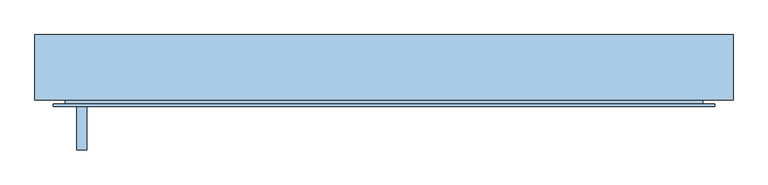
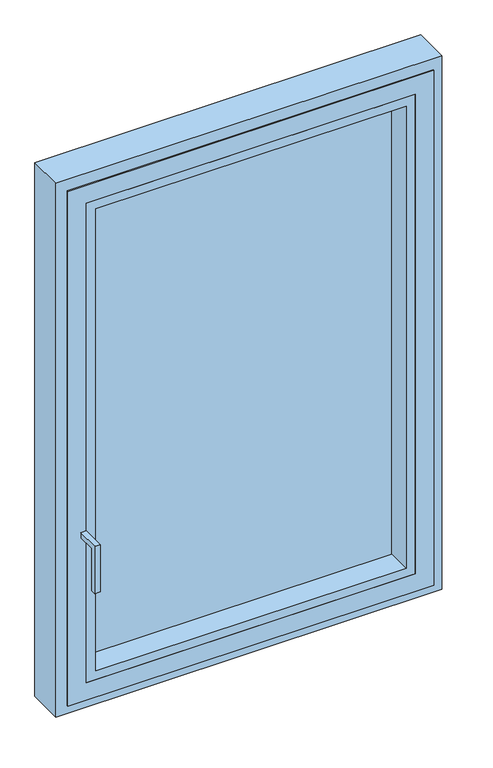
"""IFC4 building model written with IfcOpenShell, lengths in millimetres: window geometry, Reynaers_MasterLine 10_Window_Inward Opening_Single Vent : Reynaers_Masterline 10_Window_Inward Opening_Single Vent."""

from ifc_helpers import new_model, si_unit, frame, origin, place, context, project, spatial, polyline, outline, extrude, faceted_brep, source, transform, mapped, element, save


def window_15dccdcc(model_context):
    return source(origin(), model_context, "Body", "SolidModel", [
        extrude(outline(polyline([(-102.0, 1295.0), (-152.0, 1295.0), (-152.0, 1175.0), (-167.0, 1175.0), (-167.0, 1310.0), (-102.0, 1310.0), (-102.0, 1295.0)])), frame((-458.0, 0.0, 0.0), z_axis=(1.0, 0.0, 0.0), x_axis=(0.0, 1.0, 0.0)), (0.0, 0.0, 1.0), 15.0),
        faceted_brep([(-520.0, -92.0, 800.0), (-520.0, 5.0, 800.0), (520.0, 5.0, 800.0), (520.0, -92.0, 800.0), (520.0, 5.0, 2320.0), (520.0, -92.0, 2320.0), (-520.0, 5.0, 2320.0), (460.0, 5.0, 2260.0), (-460.0, 5.0, 2260.0), (-460.0, 5.0, 860.0), (460.0, 5.0, 860.0), (-520.0, -92.0, 2320.0), (487.0, -92.0, 833.0), (-487.0, -92.0, 833.0), (-487.0, -92.0, 2287.0), (487.0, -92.0, 2287.0), (-460.0, 1.0, 860.0), (460.0, 1.0, 860.0), (460.0, 1.0, 2260.0), (-487.0, 1.0, 2287.0), (-487.0, 1.0, 833.0), (487.0, 1.0, 833.0), (487.0, 1.0, 2287.0), (-460.0, 1.0, 2260.0)], [[[0, 1, 2, 3]], [[3, 2, 4, 5]], [[2, 1, 6, 4], [7, 8, 9, 10]], [[5, 11, 0, 3], [12, 13, 14, 15]], [[9, 16, 17, 10]], [[10, 17, 18, 7]], [[19, 20, 21, 22], [18, 17, 16, 23]], [[11, 6, 1, 0]], [[8, 23, 16, 9]], [[20, 13, 12, 21]], [[19, 14, 13, 20]], [[21, 12, 15, 22]], [[5, 4, 6, 11]], [[7, 18, 23, 8]], [[22, 15, 14, 19]]]),
        faceted_brep([(-453.0, -5.0, 867.0), (-453.0, 5.0, 867.0), (453.0, 5.0, 867.0), (453.0, -5.0, 867.0), (453.0, 5.0, 2253.0), (453.0, -5.0, 2253.0), (-453.0, 5.0, 2253.0), (416.0, 5.0, 2216.0), (-416.0, 5.0, 2216.0), (-416.0, 5.0, 904.0), (416.0, 5.0, 904.0), (475.0, -5.0, 2275.0), (475.0, -5.0, 845.0), (-475.0, -5.0, 845.0), (-475.0, -5.0, 2275.0), (-453.0, -5.0, 2253.0), (-416.0, -3.0, 904.0), (416.0, -3.0, 904.0), (416.0, -3.0, 2216.0), (-443.0, -3.0, 2243.0), (-443.0, -3.0, 877.0), (443.0, -3.0, 877.0), (443.0, -3.0, 2243.0), (-416.0, -3.0, 2216.0), (-443.0, -102.0, 877.0), (443.0, -102.0, 877.0), (493.0, -102.0, 2293.0), (-493.0, -102.0, 2293.0), (-493.0, -102.0, 827.0), (493.0, -102.0, 827.0), (-443.0, -102.0, 2243.0), (443.0, -102.0, 2243.0), (-493.0, -98.0, 2293.0), (-493.0, -98.0, 827.0), (493.0, -98.0, 827.0), (493.0, -98.0, 2293.0), (-475.0, -98.0, 2275.0), (-475.0, -98.0, 845.0), (475.0, -98.0, 845.0), (475.0, -98.0, 2275.0)], [[[0, 1, 2, 3]], [[3, 2, 4, 5]], [[2, 1, 6, 4], [7, 8, 9, 10]], [[11, 12, 13, 14], [15, 0, 3, 5]], [[9, 16, 17, 10]], [[10, 17, 18, 7]], [[19, 20, 21, 22], [18, 17, 16, 23]], [[15, 6, 1, 0]], [[8, 23, 16, 9]], [[20, 24, 25, 21]], [[26, 27, 28, 29], [25, 24, 30, 31]], [[19, 30, 24, 20]], [[21, 25, 31, 22]], [[27, 32, 33, 28]], [[28, 33, 34, 29]], [[29, 34, 35, 26]], [[36, 14, 13, 37]], [[37, 13, 12, 38]], [[35, 34, 33, 32], [36, 37, 38, 39]], [[38, 12, 11, 39]], [[5, 4, 6, 15]], [[7, 18, 23, 8]], [[22, 31, 30, 19]], [[39, 11, 14, 36]], [[26, 35, 32, 27]]]),
        extrude(outline(polyline([(2243.0, -443.0), (877.0, -443.0), (877.0, 443.0), (2243.0, 443.0), (2243.0, -443.0)]), holes=[polyline([(2218.0, 418.0), (902.0, 418.0), (902.0, -418.0), (2218.0, -418.0), (2218.0, 418.0)])]), frame((0.0, -102.0, 0.0), z_axis=(0.0, 1.0, 0.0), x_axis=(0.0, 0.0, 1.0)), (0.0, 0.0, 1.0), 66.0),
        extrude(outline(polyline([(435.0, -30.0), (-435.0, -30.0), (-435.0, -3.0), (435.0, -3.0), (435.0, -30.0)])), frame((0.0, 0.0, 885.0), z_axis=(0.0, 0.0, 1.0), x_axis=(1.0, 0.0, 0.0)), (0.0, 0.0, 1.0), 1350.0),
    ])


if __name__ == "__main__":
    model = new_model("IFC4")
    model_context = context("Model", 3, world=origin())
    ifc_project = project(units=[si_unit("LENGTHUNIT", "METRE", prefix="MILLI")], contexts=[model_context])
    site = spatial("IfcSite", under=ifc_project)
    building = spatial("IfcBuilding", under=site)
    placement = place(None, origin())
    window_shape = window_15dccdcc(model_context)
    element("IfcWindow", 1, ObjectType="Reynaers_MasterLine 10_Window_Inward Opening_Single Vent : Reynaers_Masterline 10_Window_Inward Opening_Single Vent", at=placement, inside=building, context=model_context, shape_type="MappedRepresentation", body=[
        mapped(window_shape, transform((0.0, 0.0, 0.0), x_axis=(1.0, 0.0, 0.0), y_axis=(0.0, 1.0, 0.0), z_axis=(0.0, 0.0, 1.0))),
    ])
    save(model, "model.ifc")
